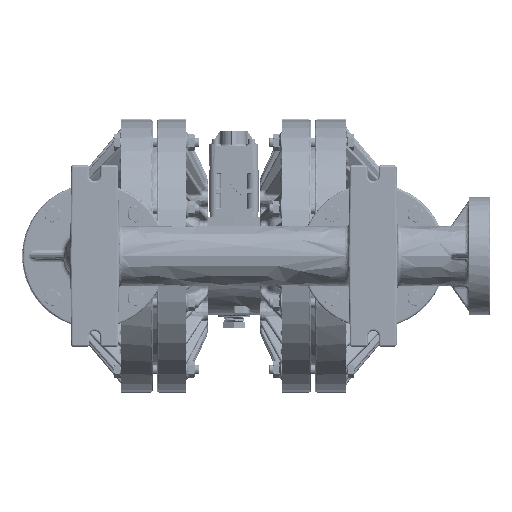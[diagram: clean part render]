
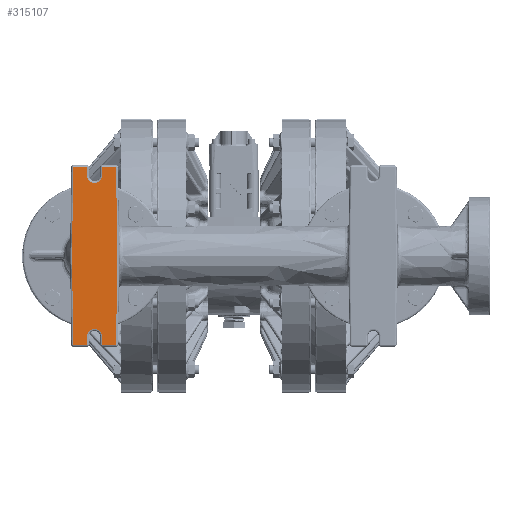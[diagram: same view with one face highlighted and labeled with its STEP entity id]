
A CAD part, front view. The second image highlights one B-rep face of the part: STEP entity #315107.
In plain terms, the highlighted free-form (B-spline) face has degree [1, 1] with [2, 2] control points.
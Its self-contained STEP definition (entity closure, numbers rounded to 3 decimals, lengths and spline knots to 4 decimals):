
#26188 = CARTESIAN_POINT ( 'NONE',  ( -8.2785, -15.22, -4.6904 ) ) ;
#27803 = DIRECTION ( 'NONE',  ( 0., 1., 0. ) ) ;
#42199 = CARTESIAN_POINT ( 'NONE',  ( -6.7025, -15.22, -4.09 ) ) ;
#43898 = LINE ( 'NONE', #306827, #450168 ) ;
#46523 = CARTESIAN_POINT ( 'NONE',  ( -5.9915, -15.22, 4.51 ) ) ;
#60743 = DIRECTION ( 'NONE',  ( -1., 0., 0. ) ) ;
#61189 = ORIENTED_EDGE ( 'NONE', *, *, #311565, .T. ) ;
#64591 = CARTESIAN_POINT ( 'NONE',  ( -8.1735, -15.22, 4.51 ) ) ;
#65137 = CARTESIAN_POINT ( 'NONE',  ( -7.4625, -15.22, 4.51 ) ) ;
#71523 = LINE ( 'NONE', #403377, #222185 ) ;
#71838 = VERTEX_POINT ( 'NONE', #65137 ) ;
#88583 = VECTOR ( 'NONE', #128089, 39.3701 ) ;
#108608 = EDGE_CURVE ( 'NONE', #658986, #709032, #332133, .T. ) ;
#108799 = CIRCLE ( 'NONE', #370325, 0.38 ) ;
#111060 = VERTEX_POINT ( 'NONE', #540518 ) ;
#128089 = DIRECTION ( 'NONE',  ( -0.013, 0., -1. ) ) ;
#129465 = VECTOR ( 'NONE', #309455, 39.3701 ) ;
#133934 = CARTESIAN_POINT ( 'NONE',  ( -7.4625, -15.22, 4.09 ) ) ;
#142280 = EDGE_CURVE ( 'NONE', #199494, #354264, #464028, .T. ) ;
#152825 = DIRECTION ( 'NONE',  ( 0., 0., 1. ) ) ;
#153971 = ORIENTED_EDGE ( 'NONE', *, *, #511134, .T. ) ;
#158959 = CARTESIAN_POINT ( 'NONE',  ( -8.2325, -15.22, 0. ) ) ;
#164764 = DIRECTION ( 'NONE',  ( -1., 0., 0. ) ) ;
#173705 = CARTESIAN_POINT ( 'NONE',  ( -5.9325, -15.22, 0. ) ) ;
#181477 = EDGE_CURVE ( 'NONE', #709032, #111060, #241441, .T. ) ;
#191694 = DIRECTION ( 'NONE',  ( -0.013, 0., -1. ) ) ;
#198597 = DIRECTION ( 'NONE',  ( 0., 0., 1. ) ) ;
#199494 = VERTEX_POINT ( 'NONE', #173705 ) ;
#204603 = CARTESIAN_POINT ( 'NONE',  ( -7.4625, -15.22, -4.09 ) ) ;
#216951 = EDGE_CURVE ( 'NONE', #420211, #752478, #71523, .T. ) ;
#220959 = CARTESIAN_POINT ( 'NONE',  ( -8.1735, -15.22, -4.51 ) ) ;
#222185 = VECTOR ( 'NONE', #528269, 39.3701 ) ;
#229847 = VERTEX_POINT ( 'NONE', #804344 ) ;
#241441 = LINE ( 'NONE', #689827, #816280 ) ;
#244343 = VERTEX_POINT ( 'NONE', #737092 ) ;
#245574 = VERTEX_POINT ( 'NONE', #707732 ) ;
#248194 = DIRECTION ( 'NONE',  ( 0.013, 0., -1. ) ) ;
#248276 = VECTOR ( 'NONE', #198597, 39.3701 ) ;
#258432 = EDGE_CURVE ( 'NONE', #727786, #816559, #786377, .T. ) ;
#280274 = LINE ( 'NONE', #133934, #248276 ) ;
#280883 = DIRECTION ( 'NONE',  ( 1., 0., 0. ) ) ;
#289115 = CARTESIAN_POINT ( 'NONE',  ( -5.8865, -15.22, -4.6904 ) ) ;
#291989 = ORIENTED_EDGE ( 'NONE', *, *, #392480, .F. ) ;
#293388 = FACE_OUTER_BOUND ( 'NONE', #777273, .T. ) ;
#303861 = CIRCLE ( 'NONE', #744360, 0.38 ) ;
#306827 = CARTESIAN_POINT ( 'NONE',  ( -7.4625, -15.22, 4.51 ) ) ;
#309455 = DIRECTION ( 'NONE',  ( 0.013, 0., -1. ) ) ;
#309638 = ORIENTED_EDGE ( 'NONE', *, *, #258432, .T. ) ;
#311565 = EDGE_CURVE ( 'NONE', #245574, #229847, #382563, .T. ) ;
#315107 = ADVANCED_FACE ( 'NONE', ( #293388 ), #597873, .T. ) ;
#322069 = DIRECTION ( 'NONE',  ( 0., 0., -1. ) ) ;
#329391 = VECTOR ( 'NONE', #191694, 39.3701 ) ;
#332133 = LINE ( 'NONE', #452926, #798138 ) ;
#333590 = EDGE_CURVE ( 'NONE', #848433, #245574, #303861, .T. ) ;
#344391 = VECTOR ( 'NONE', #248194, 39.3701 ) ;
#345549 = CARTESIAN_POINT ( 'NONE',  ( -6.7025, -15.22, -4.51 ) ) ;
#354264 = VERTEX_POINT ( 'NONE', #460355 ) ;
#364773 = EDGE_CURVE ( 'NONE', #752478, #848433, #549072, .T. ) ;
#370325 = AXIS2_PLACEMENT_3D ( 'NONE', #424335, #27803, #428595 ) ;
#374146 = LINE ( 'NONE', #46523, #129465 ) ;
#382563 = LINE ( 'NONE', #42199, #629425 ) ;
#384448 = CARTESIAN_POINT ( 'NONE',  ( -5.9915, -15.22, 4.51 ) ) ;
#392480 = EDGE_CURVE ( 'NONE', #658986, #199494, #374146, .T. ) ;
#403377 = CARTESIAN_POINT ( 'NONE',  ( -8.1735, -15.22, -4.51 ) ) ;
#405085 = DIRECTION ( 'NONE',  ( -1., 0., 0. ) ) ;
#420211 = VERTEX_POINT ( 'NONE', #220959 ) ;
#424335 = CARTESIAN_POINT ( 'NONE',  ( -7.0825, -15.22, 4.09 ) ) ;
#426187 = VECTOR ( 'NONE', #152825, 39.3701 ) ;
#428595 = DIRECTION ( 'NONE',  ( 1., 0., 0. ) ) ;
#433700 = LINE ( 'NONE', #688080, #344391 ) ;
#447426 = CARTESIAN_POINT ( 'NONE',  ( -6.7025, -15.22, 4.51 ) ) ;
#448391 = EDGE_CURVE ( 'NONE', #111060, #244343, #108799, .T. ) ;
#448655 = ORIENTED_EDGE ( 'NONE', *, *, #333590, .T. ) ;
#450168 = VECTOR ( 'NONE', #164764, 39.3701 ) ;
#452926 = CARTESIAN_POINT ( 'NONE',  ( -5.9915, -15.22, 4.51 ) ) ;
#453719 = CARTESIAN_POINT ( 'NONE',  ( -7.4625, -15.22, -4.51 ) ) ;
#454450 = EDGE_CURVE ( 'NONE', #816559, #420211, #433700, .T. ) ;
#455571 = CARTESIAN_POINT ( 'NONE',  ( -5.9325, -15.22, 0. ) ) ;
#460355 = CARTESIAN_POINT ( 'NONE',  ( -5.9915, -15.22, -4.51 ) ) ;
#464028 = LINE ( 'NONE', #455571, #88583 ) ;
#465005 = ORIENTED_EDGE ( 'NONE', *, *, #181477, .T. ) ;
#470706 = ORIENTED_EDGE ( 'NONE', *, *, #448391, .T. ) ;
#488731 = CARTESIAN_POINT ( 'NONE',  ( -7.4625, -15.22, -4.51 ) ) ;
#490358 = EDGE_CURVE ( 'NONE', #71838, #727786, #43898, .T. ) ;
#494371 = ORIENTED_EDGE ( 'NONE', *, *, #826812, .T. ) ;
#503229 = ORIENTED_EDGE ( 'NONE', *, *, #364773, .T. ) ;
#511134 = EDGE_CURVE ( 'NONE', #244343, #71838, #280274, .T. ) ;
#528269 = DIRECTION ( 'NONE',  ( 1., 0., 0. ) ) ;
#534226 = CARTESIAN_POINT ( 'NONE',  ( -7.0825, -15.22, -4.09 ) ) ;
#540518 = CARTESIAN_POINT ( 'NONE',  ( -6.7025, -15.22, 4.09 ) ) ;
#543637 = LINE ( 'NONE', #345549, #691428 ) ;
#549072 = LINE ( 'NONE', #488731, #426187 ) ;
#597873 = B_SPLINE_SURFACE_WITH_KNOTS ( 'NONE', 1, 1, ( 
 ( #763061, #633703 ),
 ( #26188, #289115 ) ),
 .UNSPECIFIED., .F., .F., .F.,
 ( 2, 2 ),
 ( 2, 2 ),
 ( -0.0804, 9.3004 ),
 ( -2.446, -0.054 ),
 .UNSPECIFIED. ) ;
#629425 = VECTOR ( 'NONE', #322069, 39.3701 ) ;
#633703 = CARTESIAN_POINT ( 'NONE',  ( -5.8865, -15.22, 4.6904 ) ) ;
#653209 = ORIENTED_EDGE ( 'NONE', *, *, #108608, .T. ) ;
#658986 = VERTEX_POINT ( 'NONE', #384448 ) ;
#688080 = CARTESIAN_POINT ( 'NONE',  ( -8.2325, -15.22, 0. ) ) ;
#689827 = CARTESIAN_POINT ( 'NONE',  ( -6.7025, -15.22, 4.51 ) ) ;
#691428 = VECTOR ( 'NONE', #280883, 39.3701 ) ;
#697050 = ORIENTED_EDGE ( 'NONE', *, *, #454450, .T. ) ;
#701452 = ORIENTED_EDGE ( 'NONE', *, *, #490358, .T. ) ;
#707732 = CARTESIAN_POINT ( 'NONE',  ( -6.7025, -15.22, -4.09 ) ) ;
#709032 = VERTEX_POINT ( 'NONE', #447426 ) ;
#717511 = CARTESIAN_POINT ( 'NONE',  ( -8.1735, -15.22, 4.51 ) ) ;
#727786 = VERTEX_POINT ( 'NONE', #64591 ) ;
#737092 = CARTESIAN_POINT ( 'NONE',  ( -7.4625, -15.22, 4.09 ) ) ;
#744360 = AXIS2_PLACEMENT_3D ( 'NONE', #534226, #768641, #405085 ) ;
#752478 = VERTEX_POINT ( 'NONE', #453719 ) ;
#763061 = CARTESIAN_POINT ( 'NONE',  ( -8.2785, -15.22, 4.6904 ) ) ;
#768641 = DIRECTION ( 'NONE',  ( 0., 1., 0. ) ) ;
#774523 = ORIENTED_EDGE ( 'NONE', *, *, #216951, .T. ) ;
#777273 = EDGE_LOOP ( 'NONE', ( #503229, #448655, #61189, #494371, #799703, #291989, #653209, #465005, #470706, #153971, #701452, #309638, #697050, #774523 ) ) ;
#786377 = LINE ( 'NONE', #717511, #329391 ) ;
#798138 = VECTOR ( 'NONE', #60743, 39.3701 ) ;
#799703 = ORIENTED_EDGE ( 'NONE', *, *, #142280, .F. ) ;
#804344 = CARTESIAN_POINT ( 'NONE',  ( -6.7025, -15.22, -4.51 ) ) ;
#816280 = VECTOR ( 'NONE', #836187, 39.3701 ) ;
#816559 = VERTEX_POINT ( 'NONE', #158959 ) ;
#826812 = EDGE_CURVE ( 'NONE', #229847, #354264, #543637, .T. ) ;
#836187 = DIRECTION ( 'NONE',  ( 0., 0., -1. ) ) ;
#848433 = VERTEX_POINT ( 'NONE', #204603 ) ;
